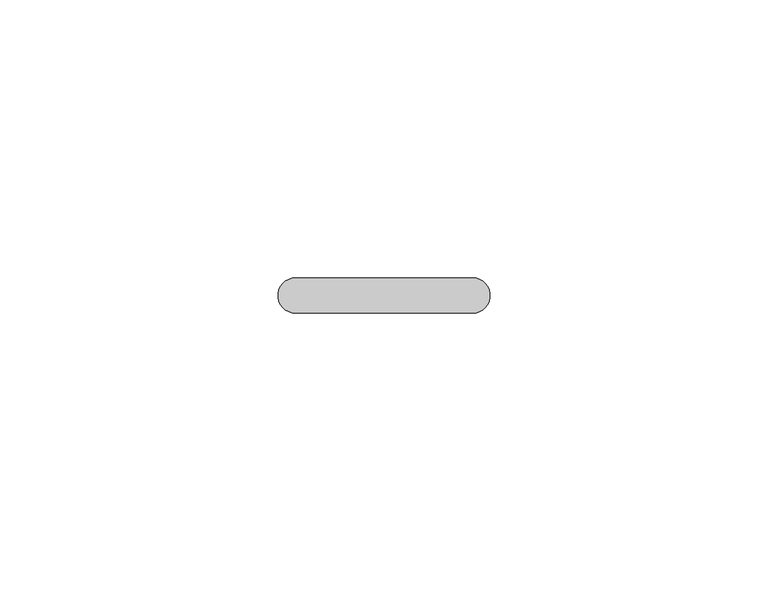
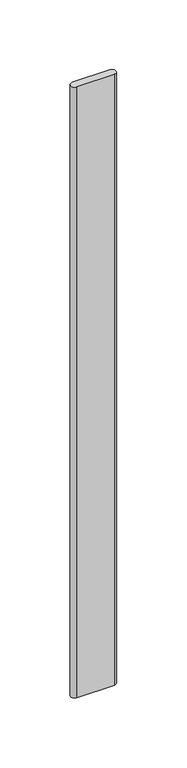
"""IFC4 building model written with IfcOpenShell, lengths in millimetres: proxy geometry, Durabond Generic Model Insulation Adhesive Flat : Durabond Generic Model Insulation Adhesive Flat."""

from ifc_helpers import new_model, si_unit, point, frame_2d, origin, origin_with_axes, place, context, project, spatial, polyline, circle_curve, trimmed, segment, composite_curve, outline, extrude, source, transform, mapped, element, save


def generic_models_4ec5f286(model_context):
    return source(origin(), model_context, "Body", "SweptSolid", [
        extrude(outline(composite_curve([segment(trimmed(circle_curve(frame_2d((15.875, 0.0)), 3.175), [point((15.875, 3.175))], [point((15.875, -3.175))], False, "CARTESIAN"), True, "CONTINUOUS"), segment(polyline([(15.875, -3.175), (-15.875, -3.175)]), True, "CONTINUOUS"), segment(trimmed(circle_curve(frame_2d((-15.875, 0.0)), 3.175), [point((-15.875, -3.175))], [point((-15.875, 3.175))], False, "CARTESIAN"), True, "CONTINUOUS"), segment(polyline([(-15.875, 3.175), (15.875, 3.175)]), True, "CONTINUOUS")], self_intersect=False)), origin_with_axes(), (0.0, 0.0, 1.0), 542.925),
    ])


if __name__ == "__main__":
    model = new_model("IFC4")
    model_context = context("Model", 3, world=origin())
    ifc_project = project(units=[si_unit("LENGTHUNIT", "METRE", prefix="MILLI")], contexts=[model_context])
    site = spatial("IfcSite", under=ifc_project)
    building = spatial("IfcBuilding", under=site)
    placement = place(None, origin())
    generic_models_shape = generic_models_4ec5f286(model_context)
    element("IfcBuildingElementProxy", 1, Name="Durabond Generic Model Insulation Adhesive Flat : Durabond Generic Model Insulation Adhesive Flat", ObjectType="Durabond Generic Model Insulation Adhesive Flat : Durabond Generic Model Insulation Adhesive Flat", at=placement, inside=building, context=model_context, shape_type="MappedRepresentation", body=[
        mapped(generic_models_shape, transform((0.0, 0.0, 0.0), x_axis=(1.0, 0.0, 0.0), y_axis=(0.0, 1.0, 0.0), z_axis=(0.0, 0.0, 1.0))),
    ])
    save(model, "model.ifc")
